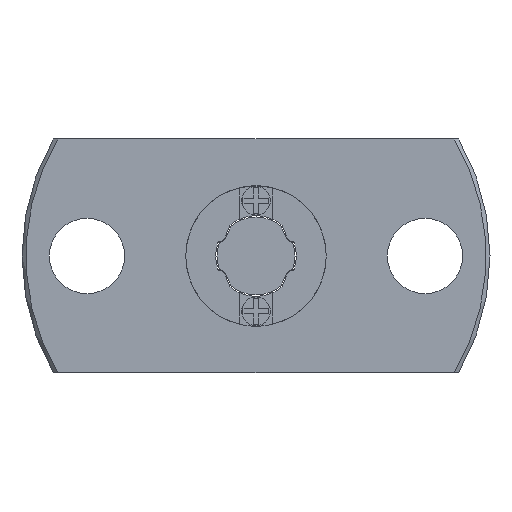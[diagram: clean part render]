
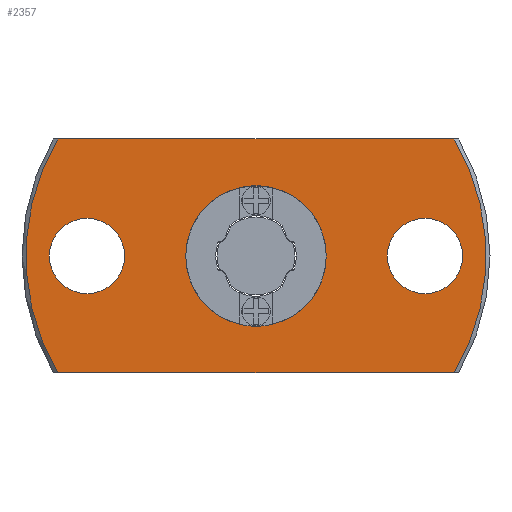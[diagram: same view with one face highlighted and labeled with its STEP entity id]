
A CAD part, left-side view. The second image highlights one B-rep face of the part: STEP entity #2357.
In plain terms, the highlighted planar face has unit normal (-1, 0, 0).
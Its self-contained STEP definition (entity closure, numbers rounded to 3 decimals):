
#53=PLANE('',#2586);
#189=LINE('',#3706,#425);
#190=LINE('',#3707,#426);
#425=VECTOR('',#2985,1000.);
#426=VECTOR('',#2986,1000.);
#804=ORIENTED_EDGE('',*,*,#1420,.F.);
#805=ORIENTED_EDGE('',*,*,#1421,.T.);
#806=ORIENTED_EDGE('',*,*,#1351,.F.);
#807=ORIENTED_EDGE('',*,*,#1422,.T.);
#808=ORIENTED_EDGE('',*,*,#1423,.F.);
#809=ORIENTED_EDGE('',*,*,#1424,.F.);
#810=ORIENTED_EDGE('',*,*,#1383,.T.);
#1351=EDGE_CURVE('',#1674,#1675,#1900,.T.);
#1383=EDGE_CURVE('',#1704,#1704,#1919,.T.);
#1420=EDGE_CURVE('',#1733,#1734,#1936,.T.);
#1421=EDGE_CURVE('',#1733,#1675,#189,.T.);
#1422=EDGE_CURVE('',#1674,#1734,#190,.T.);
#1423=EDGE_CURVE('',#1735,#1735,#1937,.F.);
#1424=EDGE_CURVE('',#1736,#1736,#1938,.F.);
#1674=VERTEX_POINT('',#3557);
#1675=VERTEX_POINT('',#3559);
#1704=VERTEX_POINT('',#3634);
#1733=VERTEX_POINT('',#3704);
#1734=VERTEX_POINT('',#3705);
#1735=VERTEX_POINT('',#3709);
#1736=VERTEX_POINT('',#3711);
#1900=CIRCLE('',#2542,8.85);
#1919=CIRCLE('',#2566,2.7);
#1936=CIRCLE('',#2587,8.85);
#1937=CIRCLE('',#2588,1.45);
#1938=CIRCLE('',#2589,1.45);
#1998=EDGE_LOOP('',(#804,#805,#806,#807));
#1999=EDGE_LOOP('',(#808));
#2000=EDGE_LOOP('',(#809));
#2001=EDGE_LOOP('',(#810));
#2158=FACE_BOUND('',#1998,.T.);
#2159=FACE_BOUND('',#1999,.T.);
#2160=FACE_BOUND('',#2000,.T.);
#2161=FACE_BOUND('',#2001,.T.);
#2357=ADVANCED_FACE('',(#2158,#2159,#2160,#2161),#53,.F.);
#2542=AXIS2_PLACEMENT_3D('',#3558,#2863,#2864);
#2566=AXIS2_PLACEMENT_3D('',#3633,#2921,#2922);
#2586=AXIS2_PLACEMENT_3D('',#3702,#2981,#2982);
#2587=AXIS2_PLACEMENT_3D('',#3703,#2983,#2984);
#2588=AXIS2_PLACEMENT_3D('',#3708,#2987,#2988);
#2589=AXIS2_PLACEMENT_3D('',#3710,#2989,#2990);
#2863=DIRECTION('',(1.,0.,0.));
#2864=DIRECTION('',(0.,0.,-1.));
#2921=DIRECTION('',(1.,0.,0.));
#2922=DIRECTION('',(0.,0.,-1.));
#2981=DIRECTION('',(1.,0.,0.));
#2982=DIRECTION('',(0.,0.,-1.));
#2983=DIRECTION('',(1.,0.,0.));
#2984=DIRECTION('',(0.,0.,-1.));
#2985=DIRECTION('',(0.,-1.,0.));
#2986=DIRECTION('',(0.,1.,0.));
#2987=DIRECTION('',(1.,0.,0.));
#2988=DIRECTION('',(0.,0.,-1.));
#2989=DIRECTION('',(1.,0.,0.));
#2990=DIRECTION('',(0.,0.,-1.));
#3557=CARTESIAN_POINT('',(-3.25,-7.621,4.5));
#3558=CARTESIAN_POINT('',(-3.25,0.,0.));
#3559=CARTESIAN_POINT('',(-3.25,-7.621,-4.5));
#3633=CARTESIAN_POINT('',(-3.25,0.,0.));
#3634=CARTESIAN_POINT('',(-3.25,0.,-2.7));
#3702=CARTESIAN_POINT('',(-3.25,2.7,0.));
#3703=CARTESIAN_POINT('',(-3.25,0.,0.));
#3704=CARTESIAN_POINT('',(-3.25,7.621,-4.5));
#3705=CARTESIAN_POINT('',(-3.25,7.621,4.5));
#3706=CARTESIAN_POINT('',(-3.25,2.7,-4.5));
#3707=CARTESIAN_POINT('',(-3.25,2.7,4.5));
#3708=CARTESIAN_POINT('',(-3.25,6.5,0.));
#3709=CARTESIAN_POINT('',(-3.25,6.5,-1.45));
#3710=CARTESIAN_POINT('',(-3.25,-6.5,0.));
#3711=CARTESIAN_POINT('',(-3.25,-6.5,-1.45));
